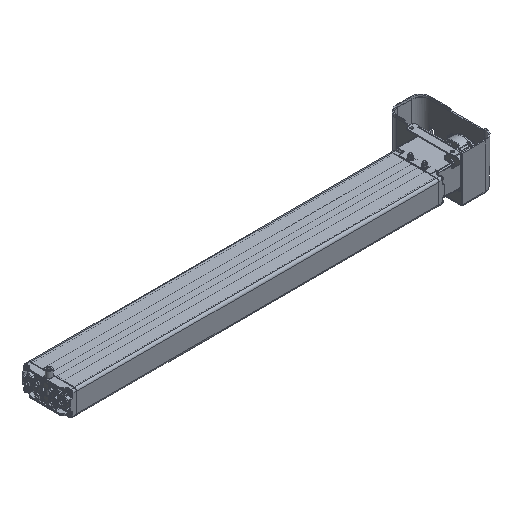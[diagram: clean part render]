
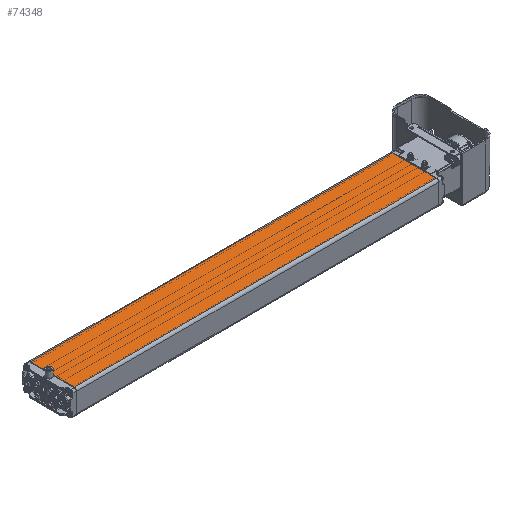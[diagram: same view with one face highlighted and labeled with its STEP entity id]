
A CAD part, isometric view. The second image highlights one B-rep face of the part: STEP entity #74348.
In plain terms, the highlighted planar face has unit normal (0, 0, 1).
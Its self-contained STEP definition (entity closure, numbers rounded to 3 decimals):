
#7078=LINE('',#125537,#10098);
#7079=LINE('',#125540,#10099);
#7080=LINE('',#125542,#10100);
#7081=LINE('',#125544,#10101);
#10098=VECTOR('',#86744,1000.);
#10099=VECTOR('',#86745,1000.);
#10100=VECTOR('',#86746,1000.);
#10101=VECTOR('',#86747,1000.);
#17794=ORIENTED_EDGE('',*,*,#34835,.T.);
#17795=ORIENTED_EDGE('',*,*,#34836,.T.);
#17796=ORIENTED_EDGE('',*,*,#34837,.T.);
#17797=ORIENTED_EDGE('',*,*,#34838,.T.);
#34835=EDGE_CURVE('',#43581,#43582,#7078,.F.);
#34836=EDGE_CURVE('',#43582,#43583,#7079,.T.);
#34837=EDGE_CURVE('',#43583,#43584,#7080,.T.);
#34838=EDGE_CURVE('',#43584,#43581,#7081,.F.);
#43581=VERTEX_POINT('',#125538);
#43582=VERTEX_POINT('',#125539);
#43583=VERTEX_POINT('',#125541);
#43584=VERTEX_POINT('',#125543);
#51980=EDGE_LOOP('',(#17794,#17795,#17796,#17797));
#56563=FACE_BOUND('',#51980,.T.);
#60304=PLANE('',#78830);
#74348=ADVANCED_FACE('',(#56563),#60304,.T.);
#78830=AXIS2_PLACEMENT_3D('',#125536,#86742,#86743);
#86742=DIRECTION('',(0.,0.,1.));
#86743=DIRECTION('',(1.,0.,0.));
#86744=DIRECTION('',(0.,-1.,0.));
#86745=DIRECTION('',(-1.,0.,0.));
#86746=DIRECTION('',(0.,-1.,0.));
#86747=DIRECTION('',(-1.,0.,0.));
#125536=CARTESIAN_POINT('',(60.,893.5,30.));
#125537=CARTESIAN_POINT('',(54.,893.5,30.));
#125538=CARTESIAN_POINT('',(54.,0.5,30.));
#125539=CARTESIAN_POINT('',(54.,893.,30.));
#125540=CARTESIAN_POINT('',(60.,893.,30.));
#125541=CARTESIAN_POINT('',(-54.,893.,30.));
#125542=CARTESIAN_POINT('',(-54.,893.5,30.));
#125543=CARTESIAN_POINT('',(-54.,0.5,30.));
#125544=CARTESIAN_POINT('',(54.,0.5,30.));
